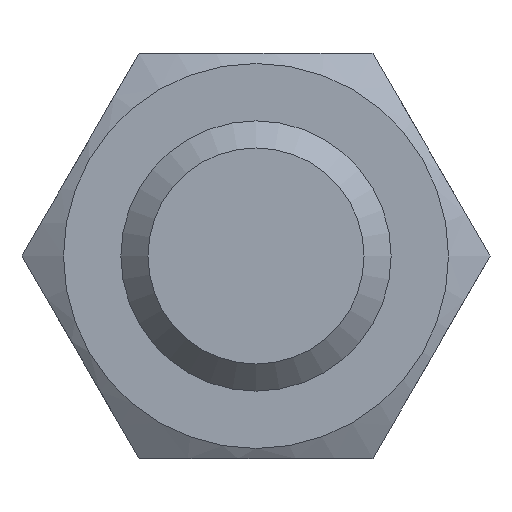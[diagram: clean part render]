
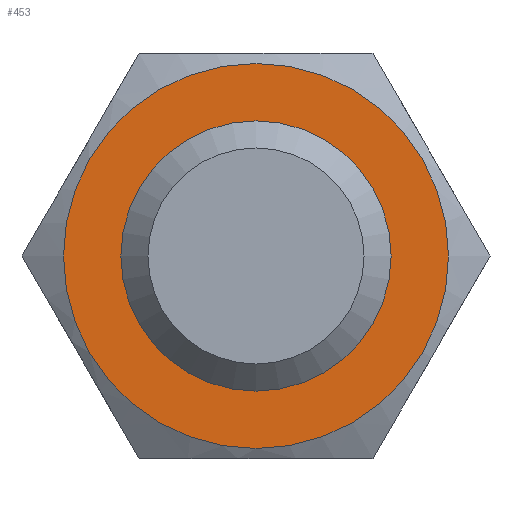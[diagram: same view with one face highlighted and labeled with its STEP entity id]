
A CAD part, left-side view. The second image highlights one B-rep face of the part: STEP entity #453.
In plain terms, the highlighted planar face has unit normal (-1, 0, 0) as drawn and (0, 0, 1) by its records, which use the part's own axes.
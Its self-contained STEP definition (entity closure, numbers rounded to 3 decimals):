
#453=ADVANCED_FACE('',(#772,#774),#776,.T.);
#772=FACE_BOUND('',#773,.T.);
#773=EDGE_LOOP('',(#962,#963));
#774=FACE_BOUND('',#775,.T.);
#775=EDGE_LOOP('',(#964));
#776=PLANE('',#777);
#777=AXIS2_PLACEMENT_3D('',#778,#779,#780);
#778=CARTESIAN_POINT('',(0.,0.,18.));
#779=DIRECTION('',(0.,0.,1.));
#780=DIRECTION('',(1.,0.,0.));
#962=ORIENTED_EDGE('',*,*,#1052,.T.);
#963=ORIENTED_EDGE('',*,*,#1051,.T.);
#964=ORIENTED_EDGE('',*,*,#1053,.T.);
#1051=EDGE_CURVE('',#1195,#1196,#1197,.F.);
#1052=EDGE_CURVE('',#1196,#1195,#1198,.F.);
#1053=EDGE_CURVE('',#1199,#1199,#1200,.F.);
#1195=VERTEX_POINT('',#2371);
#1196=VERTEX_POINT('',#2372);
#1197=CIRCLE('',#2373,14.25);
#1198=CIRCLE('',#2377,14.25);
#1199=VERTEX_POINT('',#2381);
#1200=CIRCLE('',#2382,10.);
#2371=CARTESIAN_POINT('',(-7.125,-12.341,18.));
#2372=CARTESIAN_POINT('',(0.,14.25,18.));
#2373=AXIS2_PLACEMENT_3D('',#2374,#2375,#2376);
#2374=CARTESIAN_POINT('',(0.,0.,18.));
#2375=DIRECTION('',(0.,0.,-1.));
#2376=DIRECTION('',(0.,1.,0.));
#2377=AXIS2_PLACEMENT_3D('',#2378,#2379,#2380);
#2378=CARTESIAN_POINT('',(0.,0.,18.));
#2379=DIRECTION('',(0.,0.,-1.));
#2380=DIRECTION('',(-0.5,-0.866,0.));
#2381=CARTESIAN_POINT('',(10.,0.,18.));
#2382=AXIS2_PLACEMENT_3D('',#2383,#2384,#2385);
#2383=CARTESIAN_POINT('',(0.,0.,18.));
#2384=DIRECTION('',(0.,0.,1.));
#2385=DIRECTION('',(1.,0.,0.));
